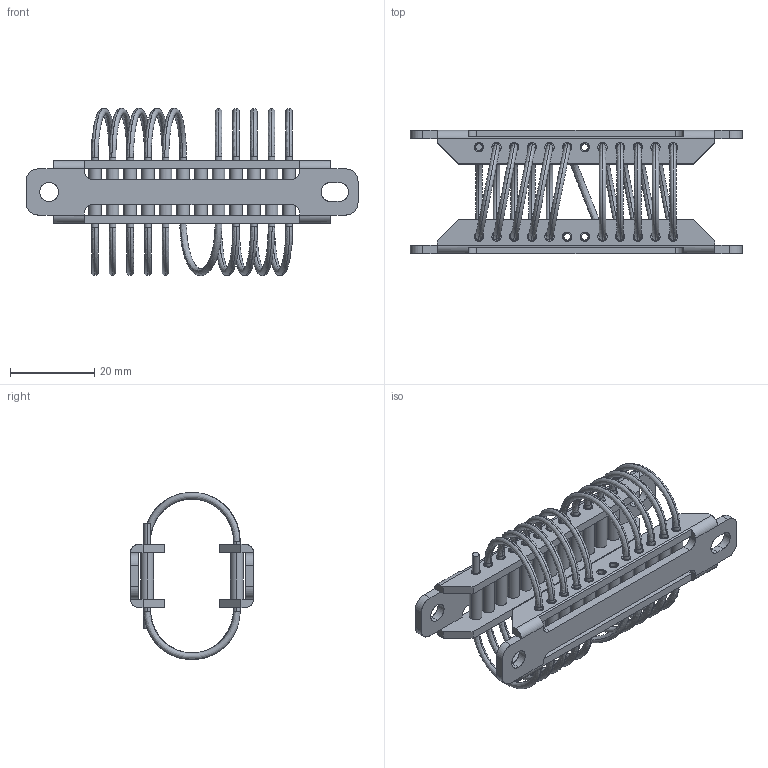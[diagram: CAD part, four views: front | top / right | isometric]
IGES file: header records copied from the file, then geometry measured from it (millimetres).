
Start section: SolidWorks IGES file using analytic representation for surfaces
Bounding box: 79 x 29.3 x 39.78 mm (x, y, z)
Surface area: 15029.4 mm2 (no closed solid volume)
Topology: 0 solids, 0 shells, 278 faces, 7237 edges, 7236 vertices
Faces by surface type: bspline 154, revolution 124
